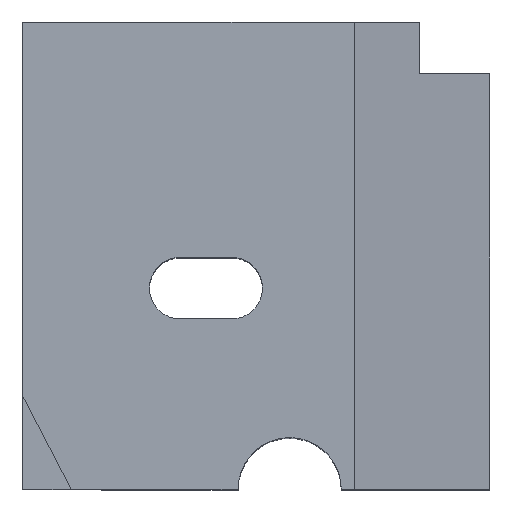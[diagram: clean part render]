
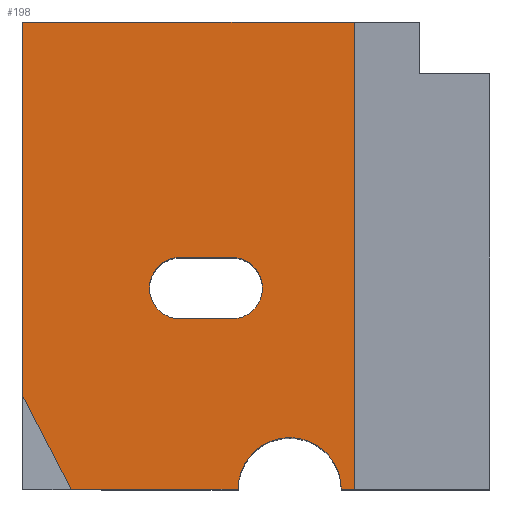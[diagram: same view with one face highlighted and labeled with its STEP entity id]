
A CAD part, top view. The second image highlights one B-rep face of the part: STEP entity #198.
In plain terms, the highlighted planar face has unit normal (0, 0, 1).
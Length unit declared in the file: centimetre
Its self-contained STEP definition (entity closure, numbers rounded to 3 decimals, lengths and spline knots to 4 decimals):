
#10 = LINE ( 'NONE', #1508, #382 ) ;
#47 = CARTESIAN_POINT ( 'NONE',  ( 338.0025, 364.3504, 1000. ) ) ;
#55 = CIRCLE ( 'NONE', #828, 110.4398 ) ;
#56 = LINE ( 'NONE', #1127, #147 ) ;
#66 = ORIENTED_EDGE ( 'NONE', *, *, #1889, .F. ) ;
#74 = VERTEX_POINT ( 'NONE', #691 ) ;
#76 = EDGE_CURVE ( 'NONE', #588, #840, #643, .T. ) ;
#81 = VERTEX_POINT ( 'NONE', #211 ) ;
#147 = VECTOR ( 'NONE', #1586, 100. ) ;
#167 = ORIENTED_EDGE ( 'NONE', *, *, #1862, .F. ) ;
#169 = ORIENTED_EDGE ( 'NONE', *, *, #826, .T. ) ;
#195 = CARTESIAN_POINT ( 'NONE',  ( 0., 1000., 1000. ) ) ;
#198 = ADVANCED_FACE ( 'NONE', ( #512, #1123 ), #1863, .T. ) ;
#203 = VERTEX_POINT ( 'NONE', #966 ) ;
#211 = CARTESIAN_POINT ( 'NONE',  ( 271.9573, 430.3957, 1000. ) ) ;
#214 = VERTEX_POINT ( 'NONE', #47 ) ;
#246 = CIRCLE ( 'NONE', #1716, 66.0452 ) ;
#249 = CARTESIAN_POINT ( 'NONE',  ( 0., 1000., 1000. ) ) ;
#261 = LINE ( 'NONE', #855, #1978 ) ;
#299 = ORIENTED_EDGE ( 'NONE', *, *, #697, .T. ) ;
#322 = DIRECTION ( 'NONE',  ( 0., 0., 1. ) ) ;
#367 = DIRECTION ( 'NONE',  ( 1., 0., 0. ) ) ;
#376 = LINE ( 'NONE', #988, #1910 ) ;
#382 = VECTOR ( 'NONE', #1358, 100. ) ;
#401 = CARTESIAN_POINT ( 'NONE',  ( 461.623, 0., 1000. ) ) ;
#430 = CARTESIAN_POINT ( 'NONE',  ( 572.0629, 0., 1000. ) ) ;
#470 = VECTOR ( 'NONE', #1158, 100. ) ;
#503 = VERTEX_POINT ( 'NONE', #249 ) ;
#511 = CARTESIAN_POINT ( 'NONE',  ( 447.7967, 496.4409, 1000. ) ) ;
#512 = FACE_OUTER_BOUND ( 'NONE', #1056, .T. ) ;
#534 = VERTEX_POINT ( 'NONE', #1610 ) ;
#544 = DIRECTION ( 'NONE',  ( 1., 0., 0. ) ) ;
#557 = DIRECTION ( 'NONE',  ( 0., 0., -1. ) ) ;
#571 = ORIENTED_EDGE ( 'NONE', *, *, #1010, .T. ) ;
#576 = CARTESIAN_POINT ( 'NONE',  ( 710.5128, 0., 1000. ) ) ;
#584 = VERTEX_POINT ( 'NONE', #401 ) ;
#588 = VERTEX_POINT ( 'NONE', #698 ) ;
#613 = EDGE_CURVE ( 'NONE', #74, #584, #261, .T. ) ;
#636 = ORIENTED_EDGE ( 'NONE', *, *, #1320, .T. ) ;
#643 = CIRCLE ( 'NONE', #1755, 66.0452 ) ;
#691 = CARTESIAN_POINT ( 'NONE',  ( 104.7843, 0., 1000. ) ) ;
#697 = EDGE_CURVE ( 'NONE', #1823, #588, #1935, .T. ) ;
#698 = CARTESIAN_POINT ( 'NONE',  ( 447.7967, 496.4409, 1000. ) ) ;
#739 = DIRECTION ( 'NONE',  ( 0., -1., 0. ) ) ;
#787 = CARTESIAN_POINT ( 'NONE',  ( 0., 0., 1000. ) ) ;
#810 = DIRECTION ( 'NONE',  ( 0., -1., 0. ) ) ;
#826 = EDGE_CURVE ( 'NONE', #534, #1685, #854, .T. ) ;
#828 = AXIS2_PLACEMENT_3D ( 'NONE', #430, #1930, #1331 ) ;
#840 = VERTEX_POINT ( 'NONE', #1014 ) ;
#849 = EDGE_LOOP ( 'NONE', ( #636, #571, #299, #1921, #1095 ) ) ;
#854 = LINE ( 'NONE', #998, #470 ) ;
#855 = CARTESIAN_POINT ( 'NONE',  ( 0., 0., 1000. ) ) ;
#868 = CARTESIAN_POINT ( 'NONE',  ( 338.0025, 430.3957, 1000. ) ) ;
#884 = VECTOR ( 'NONE', #810, 100. ) ;
#906 = EDGE_CURVE ( 'NONE', #74, #1526, #376, .T. ) ;
#917 = ORIENTED_EDGE ( 'NONE', *, *, #1556, .T. ) ;
#929 = ORIENTED_EDGE ( 'NONE', *, *, #906, .F. ) ;
#966 = CARTESIAN_POINT ( 'NONE',  ( 710.5128, 1000., 1000. ) ) ;
#988 = CARTESIAN_POINT ( 'NONE',  ( 0., 201.4283, 1000. ) ) ;
#998 = CARTESIAN_POINT ( 'NONE',  ( 0., 0., 1000. ) ) ;
#1010 = EDGE_CURVE ( 'NONE', #81, #1823, #246, .T. ) ;
#1014 = CARTESIAN_POINT ( 'NONE',  ( 447.7967, 364.3504, 1000. ) ) ;
#1056 = EDGE_LOOP ( 'NONE', ( #167, #169, #66, #917, #1408, #929, #1414 ) ) ;
#1095 = ORIENTED_EDGE ( 'NONE', *, *, #1764, .T. ) ;
#1123 = FACE_BOUND ( 'NONE', #849, .T. ) ;
#1127 = CARTESIAN_POINT ( 'NONE',  ( 338.0025, 364.3504, 1000. ) ) ;
#1144 = DIRECTION ( 'NONE',  ( 1., 0., 0. ) ) ;
#1158 = DIRECTION ( 'NONE',  ( 1., 0., 0. ) ) ;
#1167 = DIRECTION ( 'NONE',  ( 1., 0., 0. ) ) ;
#1172 = VECTOR ( 'NONE', #739, 100. ) ;
#1272 = EDGE_CURVE ( 'NONE', #503, #1526, #1565, .T. ) ;
#1312 = CARTESIAN_POINT ( 'NONE',  ( 338.0025, 496.4409, 1000. ) ) ;
#1320 = EDGE_CURVE ( 'NONE', #214, #81, #1393, .T. ) ;
#1331 = DIRECTION ( 'NONE',  ( 1., 0., 0. ) ) ;
#1358 = DIRECTION ( 'NONE',  ( -1., 0., 0. ) ) ;
#1370 = CARTESIAN_POINT ( 'NONE',  ( 338.0025, 430.3957, 1000. ) ) ;
#1393 = CIRCLE ( 'NONE', #1647, 66.0452 ) ;
#1408 = ORIENTED_EDGE ( 'NONE', *, *, #1272, .T. ) ;
#1409 = DIRECTION ( 'NONE',  ( 0., 0., -1. ) ) ;
#1414 = ORIENTED_EDGE ( 'NONE', *, *, #613, .T. ) ;
#1432 = VECTOR ( 'NONE', #544, 100. ) ;
#1441 = DIRECTION ( 'NONE',  ( -0.461, 0.887, 0. ) ) ;
#1451 = DIRECTION ( 'NONE',  ( 0., 0., -1. ) ) ;
#1462 = DIRECTION ( 'NONE',  ( 1., 0., 0. ) ) ;
#1508 = CARTESIAN_POINT ( 'NONE',  ( 0., 1000., 1000. ) ) ;
#1517 = AXIS2_PLACEMENT_3D ( 'NONE', #787, #322, #367 ) ;
#1526 = VERTEX_POINT ( 'NONE', #1558 ) ;
#1556 = EDGE_CURVE ( 'NONE', #203, #503, #10, .T. ) ;
#1558 = CARTESIAN_POINT ( 'NONE',  ( 0., 201.4283, 1000. ) ) ;
#1565 = LINE ( 'NONE', #195, #884 ) ;
#1582 = CARTESIAN_POINT ( 'NONE',  ( 447.7967, 430.3957, 1000. ) ) ;
#1586 = DIRECTION ( 'NONE',  ( -1., 0., 0. ) ) ;
#1610 = CARTESIAN_POINT ( 'NONE',  ( 682.5027, 0., 1000. ) ) ;
#1647 = AXIS2_PLACEMENT_3D ( 'NONE', #868, #557, #1462 ) ;
#1685 = VERTEX_POINT ( 'NONE', #1760 ) ;
#1716 = AXIS2_PLACEMENT_3D ( 'NONE', #1370, #1409, #1849 ) ;
#1755 = AXIS2_PLACEMENT_3D ( 'NONE', #1582, #1451, #1144 ) ;
#1760 = CARTESIAN_POINT ( 'NONE',  ( 710.5128, 0., 1000. ) ) ;
#1764 = EDGE_CURVE ( 'NONE', #840, #214, #56, .T. ) ;
#1823 = VERTEX_POINT ( 'NONE', #1312 ) ;
#1849 = DIRECTION ( 'NONE',  ( 1., 0., 0. ) ) ;
#1862 = EDGE_CURVE ( 'NONE', #534, #584, #55, .T. ) ;
#1863 = PLANE ( 'NONE',  #1517 ) ;
#1889 = EDGE_CURVE ( 'NONE', #203, #1685, #1949, .T. ) ;
#1910 = VECTOR ( 'NONE', #1441, 100. ) ;
#1921 = ORIENTED_EDGE ( 'NONE', *, *, #76, .T. ) ;
#1930 = DIRECTION ( 'NONE',  ( 0., 0., 1. ) ) ;
#1935 = LINE ( 'NONE', #511, #1432 ) ;
#1949 = LINE ( 'NONE', #576, #1172 ) ;
#1978 = VECTOR ( 'NONE', #1167, 100. ) ;
